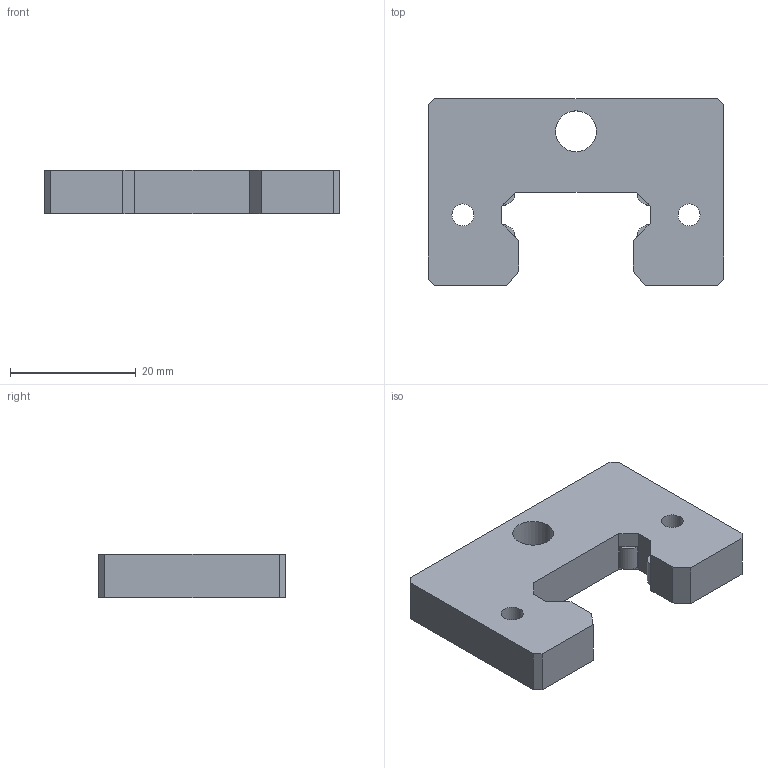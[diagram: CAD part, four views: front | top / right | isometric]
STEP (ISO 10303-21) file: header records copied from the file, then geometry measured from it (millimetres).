
FILE_DESCRIPTION (( 'STEP AP203' ), '1' );
FILE_NAME ('MF 25A (FL,FLL,SL,SLL,HL,HLL).STEP', '2015-01-09T05:01:53', ( 'john' ), ( '' ), 'SwSTEP 2.0', 'SolidWorks 2013', '' );
FILE_SCHEMA (( 'CONFIG_CONTROL_DESIGN' ));
Length unit declared in the file: millimetre
Products named in the file (1): MF 25A (FL,FLL,SL,SLL,HL,HLL)
Bounding box: 47 x 29.7 x 7 mm (x, y, z)
Volume: 7286.3 mm3; surface area: 3670.3 mm2
Topology: 1 solids, 1 shells, 37 faces, 93 edges, 62 vertices
Faces by surface type: plane 30, cylinder 7
Full cylindrical faces by diameter (mm): 3.5 x2, 6.5 x1
Entity records: 1175 total; most frequent: CARTESIAN_POINT 190, DIRECTION 180, ORIENTED_EDGE 180, EDGE_CURVE 90, LINE 76, VECTOR 76, VERTEX_POINT 62, AXIS2_PLACEMENT_3D 52
